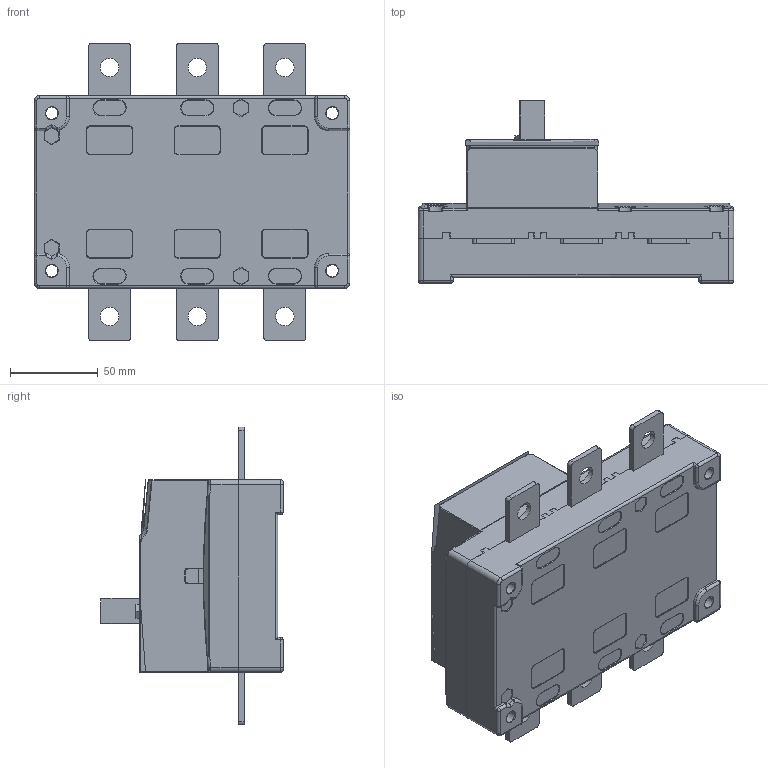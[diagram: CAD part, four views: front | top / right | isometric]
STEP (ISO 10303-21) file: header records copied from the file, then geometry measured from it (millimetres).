
FILE_DESCRIPTION((''),'2;1');
FILE_NAME('NH40-250-3_ASM','2018-05-15T',('zhuanghy'),(''),'PRO/ENGINEER BY PARAMETRIC TECHNOLOGY CORPORATION, 2008380','PRO/ENGINEER BY PARAMETRIC TECHNOLOGY CORPORATION, 2008380','');
FILE_SCHEMA(('CONFIG_CONTROL_DESIGN'));
Length unit declared in the file: millimetre
Products named in the file (7): 8ZTK-0022-105_89; 8ZTK-064-108_80; 8-310-035-02_8; NH40-250JINGCHUTOU_94; NH40-250BOCHA_96; ASM0002_ASM_3_ASM; NH40-250-3_ASM
Assembly tree (11 placements, depth 3):
  NH40-250-3_ASM
    ASM0002_ASM_3_ASM
      8ZTK-0022-105_89
      8ZTK-064-108_80
      8-310-035-02_8
      NH40-250JINGCHUTOU_94  x6
      NH40-250BOCHA_96
Bounding box: 180 x 104 x 170 mm (x, y, z)
Volume: 977550.7 mm3; surface area: 208718 mm2
Topology: 10 solids, 11 shells, 1459 faces, 3936 edges, 2523 vertices
Faces by surface type: plane 700, cylinder 514, torus 112, bspline 56, extrusion 44, sphere 31, cone 2
Entity records: 48421 total; most frequent: CARTESIAN_POINT 13364, ORIENTED_EDGE 7439, DIRECTION 7137, EDGE_CURVE 3725, AXIS2_PLACEMENT_3D 2419, VERTEX_POINT 2403, VECTOR 2299, LINE 2255
